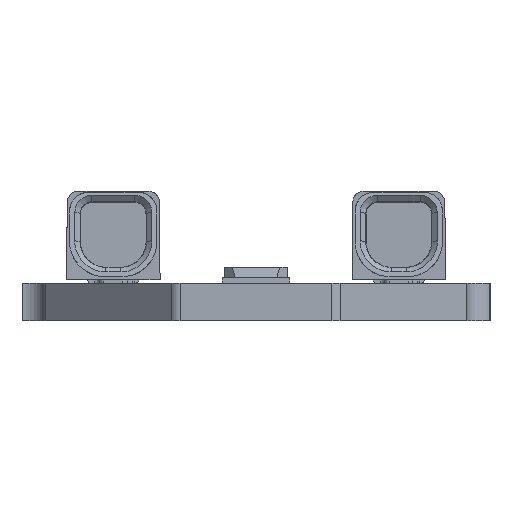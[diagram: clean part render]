
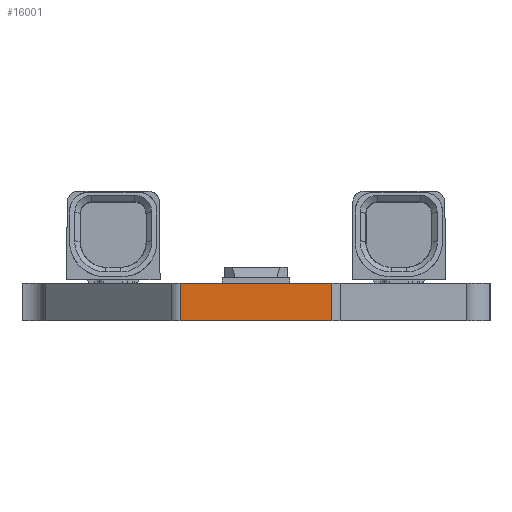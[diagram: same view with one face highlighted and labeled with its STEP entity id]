
A CAD part, left-side view. The second image highlights one B-rep face of the part: STEP entity #16001.
In plain terms, the highlighted planar face has unit normal (-1, 0, 0).
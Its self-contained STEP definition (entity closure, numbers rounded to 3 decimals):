
#134 = VECTOR ( 'NONE', #25851, 1000. ) ;
#506 = VERTEX_POINT ( 'NONE', #15977 ) ;
#959 = LINE ( 'NONE', #4757, #134 ) ;
#1326 = ORIENTED_EDGE ( 'NONE', *, *, #23002, .F. ) ;
#4235 = CARTESIAN_POINT ( 'NONE',  ( 0., 13.243, 1.6 ) ) ;
#4757 = CARTESIAN_POINT ( 'NONE',  ( 0., 13.243, 1.6 ) ) ;
#5730 = EDGE_CURVE ( 'NONE', #7790, #506, #10804, .T. ) ;
#7790 = VERTEX_POINT ( 'NONE', #15583 ) ;
#7968 = EDGE_CURVE ( 'NONE', #20695, #506, #34721, .T. ) ;
#8439 = PLANE ( 'NONE',  #11433 ) ;
#10804 = LINE ( 'NONE', #24512, #17956 ) ;
#10973 = VECTOR ( 'NONE', #12406, 1000. ) ;
#11433 = AXIS2_PLACEMENT_3D ( 'NONE', #15511, #26040, #14983 ) ;
#12406 = DIRECTION ( 'NONE',  ( 0., -1., 0. ) ) ;
#14983 = DIRECTION ( 'NONE',  ( 0., 1., 0. ) ) ;
#15511 = CARTESIAN_POINT ( 'NONE',  ( 0., 13.243, 1.6 ) ) ;
#15583 = CARTESIAN_POINT ( 'NONE',  ( 0., 6.757, 1.6 ) ) ;
#15977 = CARTESIAN_POINT ( 'NONE',  ( 0., 6.757, 0. ) ) ;
#16001 = ADVANCED_FACE ( 'NONE', ( #28202 ), #8439, .F. ) ;
#17387 = EDGE_CURVE ( 'NONE', #20214, #20695, #959, .T. ) ;
#17414 = EDGE_LOOP ( 'NONE', ( #18812, #31768, #1326, #34701 ) ) ;
#17956 = VECTOR ( 'NONE', #28157, 1000. ) ;
#17980 = CARTESIAN_POINT ( 'NONE',  ( 0., 13.243, 0. ) ) ;
#18017 = DIRECTION ( 'NONE',  ( 0., -1., 0. ) ) ;
#18812 = ORIENTED_EDGE ( 'NONE', *, *, #7968, .T. ) ;
#20214 = VERTEX_POINT ( 'NONE', #21300 ) ;
#20695 = VERTEX_POINT ( 'NONE', #20798 ) ;
#20798 = CARTESIAN_POINT ( 'NONE',  ( 0., 13.243, 0. ) ) ;
#21300 = CARTESIAN_POINT ( 'NONE',  ( 0., 13.243, 1.6 ) ) ;
#23002 = EDGE_CURVE ( 'NONE', #20214, #7790, #30345, .T. ) ;
#23123 = VECTOR ( 'NONE', #18017, 1000. ) ;
#24512 = CARTESIAN_POINT ( 'NONE',  ( 0., 6.757, 1.6 ) ) ;
#25851 = DIRECTION ( 'NONE',  ( 0., 0., -1. ) ) ;
#26040 = DIRECTION ( 'NONE',  ( 1., 0., 0. ) ) ;
#28157 = DIRECTION ( 'NONE',  ( 0., 0., -1. ) ) ;
#28202 = FACE_OUTER_BOUND ( 'NONE', #17414, .T. ) ;
#30345 = LINE ( 'NONE', #4235, #23123 ) ;
#31768 = ORIENTED_EDGE ( 'NONE', *, *, #5730, .F. ) ;
#34701 = ORIENTED_EDGE ( 'NONE', *, *, #17387, .T. ) ;
#34721 = LINE ( 'NONE', #17980, #10973 ) ;
